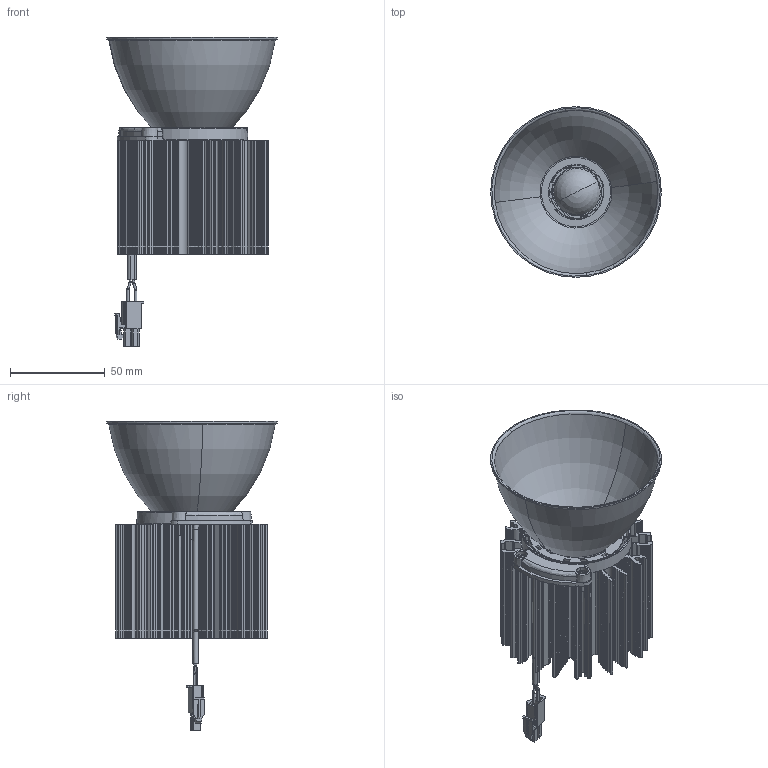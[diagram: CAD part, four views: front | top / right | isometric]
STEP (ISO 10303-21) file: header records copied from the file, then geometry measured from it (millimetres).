
FILE_DESCRIPTION(('Creo Elements/Direct Modeling STEP Export'),'2;1');
FILE_NAME('EVO90.stp','2018-07-23T 7:56:54',(''),(''),'Creo Elements/Direct Modeling STEP processor for AP214 (Solid Model)','Creo Elements/Direct Modeling 20.0B 07-Aug-2017 (C) Parametric Technology GmbH','');
FILE_SCHEMA(('AUTOMOTIVE_DESIGN { 1 0 10303 214 1 1 1 1 }'));
Length unit declared in the file: millimetre
Products named in the file (27): dissipatore_D80; CAVO.1; puntale.1.1; cavo_1; cop_maschio.1; puntale.1; connettore; DMS18C; cavo_rosso.2; cavo_nero; CAVO-BIP_PIA; g3; cablaggi; LED_cablato; LED_ENGINE; etichetta.1; diffusore_sferico.1; HOLDER_28X28; COP_SRC_EVO; riflettore_alluminio; EVO90
Assembly tree (26 placements, depth 7):
  EVO90
    riflettore_alluminio
    COP_SRC_EVO
    HOLDER_28X28
    diffusore_sferico.1
    etichetta.1
    LED_ENGINE
      LED_cablato
        cablaggi
          connettore
            cavo_1
            g3
              puntale.1
              cop_maschio.1
              puntale.1.1
            CAVO.1
          CAVO-BIP_PIA
          cavo_nero
          cavo_rosso.2
        DMS18C
      connettore
        puntale.1
        cop_maschio.1
        cavo_1
        puntale.1.1
        CAVO.1
    dissipatore_D80
Bounding box: 90 x 90 x 162.96 mm (x, y, z)
Volume: 139580.3 mm3; surface area: 121944.3 mm2
Topology: 17 solids, 18 shells, 3468 faces, 9846 edges, 6420 vertices
Faces by surface type: plane 2014, cylinder 703, bspline 385, cone 157, torus 149, sphere 52, revolution 8
Entity records: 148282 total; most frequent: CARTESIAN_POINT 63061, ORIENTED_EDGE 19640, DIRECTION 14642, EDGE_CURVE 9821, VERTEX_POINT 6420, VECTOR 5596, LINE 5596, AXIS2_PLACEMENT_3D 4518
